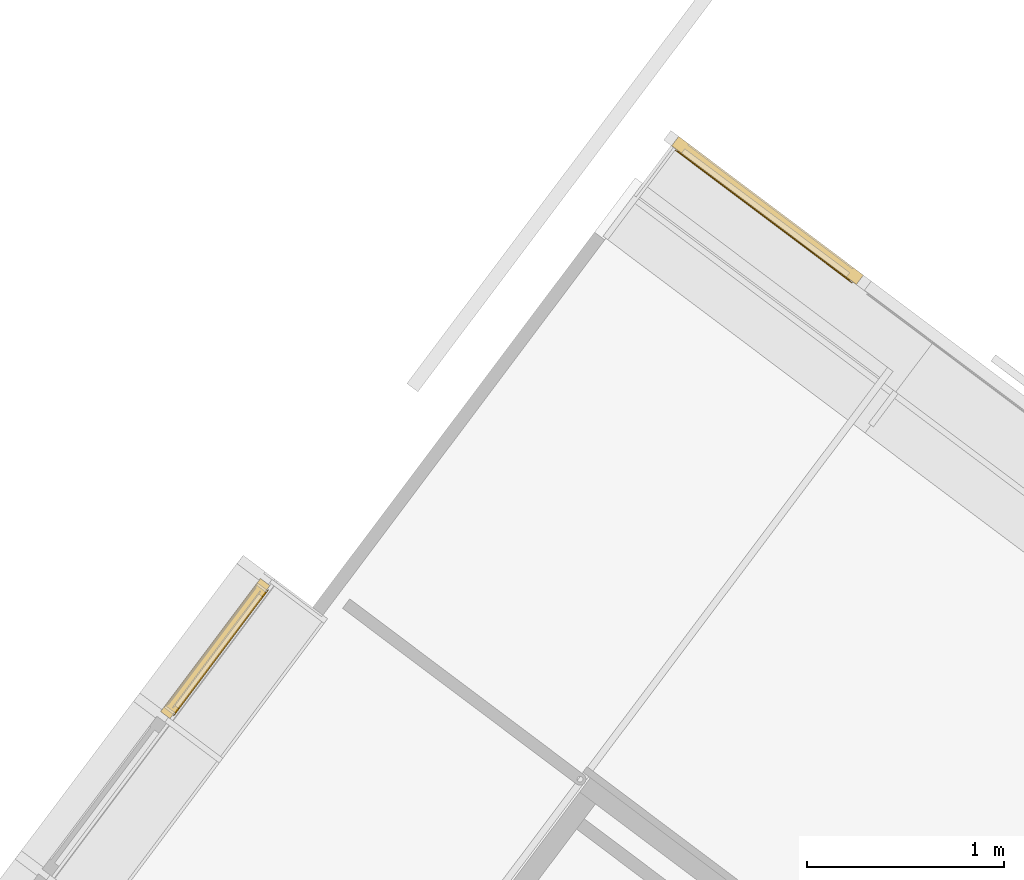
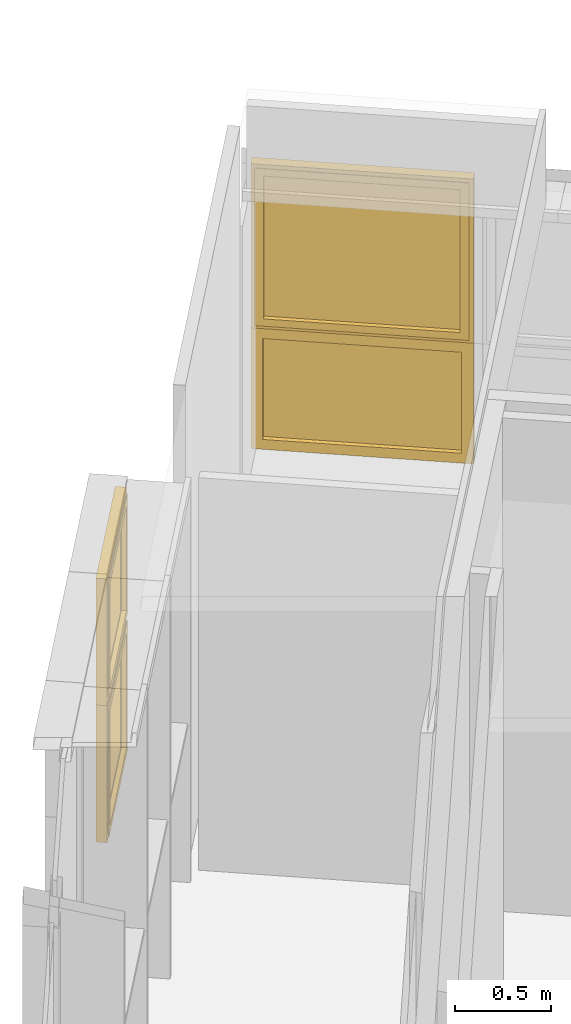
# One storey, part 234 of 243: 4 windows, 2 elements without a shape of their own.
"""IFC2X3 building model written with IfcOpenShell, lengths in metres."""

from ifc_helpers import new_model, entity, si_unit, converted_unit, derived_unit, direction, frame, origin, place, context, subcontext, project, spatial, faceted_brep, source, transform, mapped, material, material_list, type_object, type_shapes, element, aggregate, save


model = new_model("IFC2X3")

# Units and contexts
model_context = context("Model", 3, precision=1e-05, world=origin(), true_north=direction((6.123031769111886e-17, 1.0)))
body_context = subcontext(model_context, "Body", "Model", "MODEL_VIEW")
ifc_project = project(units=[si_unit("LENGTHUNIT", "METRE"), si_unit("AREAUNIT", "SQUARE_METRE"), si_unit("VOLUMEUNIT", "CUBIC_METRE"), converted_unit("PLANEANGLEUNIT", "DEGREE", entity("IfcRatioMeasure", 0.017453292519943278), si_unit("PLANEANGLEUNIT", "RADIAN"), dimensions=[0, 0, 0, 0, 0, 0, 0]), si_unit("MASSUNIT", "GRAM", prefix="KILO"), derived_unit("MASSDENSITYUNIT", [(si_unit("MASSUNIT", "GRAM", prefix="KILO"), 1), (si_unit("LENGTHUNIT", "METRE"), -3)]), derived_unit("IONCONCENTRATIONUNIT", [(si_unit("MASSUNIT", "GRAM", prefix="KILO"), 1), (si_unit("LENGTHUNIT", "METRE"), -3)]), derived_unit("MOMENTOFINERTIAUNIT", [(si_unit("LENGTHUNIT", "METRE"), 4)]), si_unit("TIMEUNIT", "SECOND"), si_unit("FREQUENCYUNIT", "HERTZ"), si_unit("THERMODYNAMICTEMPERATUREUNIT", "DEGREE_CELSIUS"), derived_unit("THERMALTRANSMITTANCEUNIT", [(si_unit("MASSUNIT", "GRAM", prefix="KILO"), 1), (si_unit("THERMODYNAMICTEMPERATUREUNIT", "KELVIN"), -1), (si_unit("TIMEUNIT", "SECOND"), -3)]), derived_unit("THERMALCONDUCTANCEUNIT", [(si_unit("MASSUNIT", "GRAM", prefix="KILO"), 1), (si_unit("THERMODYNAMICTEMPERATUREUNIT", "KELVIN"), -1), (si_unit("TIMEUNIT", "SECOND"), -3), (si_unit("LENGTHUNIT", "METRE"), 1)]), derived_unit("VOLUMETRICFLOWRATEUNIT", [(si_unit("LENGTHUNIT", "METRE"), 3), (si_unit("TIMEUNIT", "SECOND"), -1)]), derived_unit("MASSFLOWRATEUNIT", [(si_unit("MASSUNIT", "GRAM", prefix="KILO"), 1), (si_unit("TIMEUNIT", "SECOND"), -1)]), derived_unit("ROTATIONALFREQUENCYUNIT", [(si_unit("TIMEUNIT", "SECOND"), -1)]), si_unit("ELECTRICCURRENTUNIT", "AMPERE"), si_unit("ELECTRICVOLTAGEUNIT", "VOLT"), si_unit("POWERUNIT", "WATT"), si_unit("FORCEUNIT", "NEWTON", prefix="KILO"), si_unit("ILLUMINANCEUNIT", "LUX"), si_unit("LUMINOUSFLUXUNIT", "LUMEN"), si_unit("LUMINOUSINTENSITYUNIT", "CANDELA"), derived_unit("USERDEFINED", [(si_unit("MASSUNIT", "GRAM", prefix="KILO"), -1), (si_unit("LENGTHUNIT", "METRE"), -2), (si_unit("TIMEUNIT", "SECOND"), 3), (si_unit("LUMINOUSFLUXUNIT", "LUMEN"), 1)]), derived_unit("USERDEFINED", [(si_unit("MASSUNIT", "GRAM", prefix="KILO"), 1), (si_unit("TIMEUNIT", "SECOND"), -3), (si_unit("LENGTHUNIT", "METRE"), 3), (si_unit("ELECTRICCURRENTUNIT", "AMPERE"), -2)]), derived_unit("SOUNDPOWERUNIT", [(si_unit("MASSUNIT", "GRAM", prefix="KILO"), 1), (si_unit("TIMEUNIT", "SECOND"), -3), (si_unit("LENGTHUNIT", "METRE"), 2)]), derived_unit("SOUNDPRESSUREUNIT", [(si_unit("MASSUNIT", "GRAM", prefix="KILO"), 1), (si_unit("LENGTHUNIT", "METRE"), -1), (si_unit("TIMEUNIT", "SECOND"), -2)]), derived_unit("LINEARVELOCITYUNIT", [(si_unit("LENGTHUNIT", "METRE"), 1), (si_unit("TIMEUNIT", "SECOND"), -1)]), si_unit("PRESSUREUNIT", "PASCAL"), derived_unit("USERDEFINED", [(si_unit("MASSUNIT", "GRAM", prefix="KILO"), 1), (si_unit("LENGTHUNIT", "METRE"), -2), (si_unit("TIMEUNIT", "SECOND"), -2)]), derived_unit("LINEARFORCEUNIT", [(si_unit("MASSUNIT", "GRAM", prefix="KILO"), 1), (si_unit("TIMEUNIT", "SECOND"), -2)]), derived_unit("PLANARFORCEUNIT", [(si_unit("MASSUNIT", "GRAM", prefix="KILO"), 1), (si_unit("LENGTHUNIT", "METRE"), -1), (si_unit("TIMEUNIT", "SECOND"), -2)]), derived_unit("SPECIFICHEATCAPACITYUNIT", [(si_unit("THERMODYNAMICTEMPERATUREUNIT", "KELVIN"), -1), (si_unit("LENGTHUNIT", "METRE"), 2), (si_unit("TIMEUNIT", "SECOND"), -2)]), derived_unit("HEATINGVALUEUNIT", [(si_unit("LENGTHUNIT", "METRE"), 2), (si_unit("TIMEUNIT", "SECOND"), -2)]), derived_unit("VAPORPERMEABILITYUNIT", [(si_unit("LENGTHUNIT", "METRE"), -1), (si_unit("TIMEUNIT", "SECOND"), 1)]), derived_unit("DYNAMICVISCOSITYUNIT", [(si_unit("MASSUNIT", "GRAM", prefix="KILO"), 1), (si_unit("TIMEUNIT", "SECOND"), -1), (si_unit("LENGTHUNIT", "METRE"), -1)]), derived_unit("THERMALEXPANSIONCOEFFICIENTUNIT", [(si_unit("THERMODYNAMICTEMPERATUREUNIT", "KELVIN"), -1)]), derived_unit("MODULUSOFELASTICITYUNIT", [(si_unit("MASSUNIT", "GRAM", prefix="KILO"), 1), (si_unit("LENGTHUNIT", "METRE"), -1), (si_unit("TIMEUNIT", "SECOND"), -2)]), derived_unit("ISOTHERMALMOISTURECAPACITYUNIT", [(si_unit("LENGTHUNIT", "METRE"), 3), (si_unit("MASSUNIT", "GRAM", prefix="KILO"), -1)]), derived_unit("MOISTUREDIFFUSIVITYUNIT", [(si_unit("TIMEUNIT", "SECOND"), -1), (si_unit("LENGTHUNIT", "METRE"), 2)])], contexts=[model_context])

# Site, building, storey
site_placement = place(None, frame((0.0, 0.0, 235.0), z_axis=(0.0, 0.0, 1.0), x_axis=(-0.7996477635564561, 0.6004693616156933, 0.0)))
site = spatial("IfcSite", under=ifc_project, at=site_placement, Name="Default", CompositionType="ELEMENT")
building_placement = place(site_placement, origin())
building = spatial("IfcBuilding", under=site, at=building_placement, CompositionType="ELEMENT")
storey_placement = place(building_placement, origin())
storey = spatial("IfcBuildingStorey", under=building, at=storey_placement, Name="P0- Escola", CompositionType="ELEMENT", Elevation=0.0)

# Curtain wall, windows
curtain_wall_type_1 = type_object("IfcCurtainWallType", Name="Muro cortina:MC- EXT- MC6", PredefinedType="NOTDEFINED")
curtain_wall_1_placement = place(storey_placement, origin())
curtain_wall_1 = element("IfcCurtainWall", 1, at=curtain_wall_1_placement, inside=storey, type_object=curtain_wall_type_1, Name="Muro cortina:MC- EXT- MC6", ObjectType="Muro cortina:MC- EXT- MC6")
ifc_material_1 = material(Name="_Vidre")
ifc_material_2 = material(Name="_Alumini- T1- Perfil")
ifc_material_list = material_list([ifc_material_1, ifc_material_2])
window_style_1 = type_object("IfcWindowStyle", Name="MC- Alu- Conjunt vidre fix- 62x60 cm:MC- Alu- Conjunt vidre fix- 62x60 cm", ConstructionType="NOTDEFINED", OperationType="NOTDEFINED", ParameterTakesPrecedence=False, Sizeable=False, material=ifc_material_list)
shared_shape_1 = source(origin(), body_context, "Body", "Brep", [
    faceted_brep([(0.5369907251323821, -0.007600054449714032, 0.048806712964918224), (0.5369907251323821, -0.03160022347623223, 0.048806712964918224), (-0.5369907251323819, -0.03160022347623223, 0.048806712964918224), (-0.5369907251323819, -0.007600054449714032, 0.048806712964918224), (0.5369907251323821, -0.007600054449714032, 0.7210000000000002), (-0.5369907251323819, -0.007600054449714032, 0.7210000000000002), (-0.5369907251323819, -0.03160022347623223, 0.7210000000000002), (0.5369907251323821, -0.03160022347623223, 0.7210000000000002)], [[[0, 1, 2, 3]], [[4, 0, 3, 5]], [[5, 3, 2, 6]], [[6, 2, 1, 7]], [[7, 1, 0, 4]], [[4, 5, 6, 7]]]),
    faceted_brep([(0.5857974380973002, -0.05999999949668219, 0.7700000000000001), (0.5857974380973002, -0.05999999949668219, 0.0), (0.5857974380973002, 0.0, 0.0), (0.5857974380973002, 0.0, 0.77), (-0.5857974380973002, 0.0, 0.7700000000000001), (-0.5857974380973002, 0.0, 0.0), (0.522990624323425, 0.0, 0.7071931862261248), (-0.5229906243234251, 0.0, 0.707193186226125), (-0.522990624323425, 0.0, 0.0628068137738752), (0.522990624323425, 0.0, 0.06280681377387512), (-0.5857974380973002, -0.05999999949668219, 0.0), (-0.5857974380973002, -0.05999999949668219, 0.7700000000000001), (-0.5229934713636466, -0.05999999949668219, 0.7071960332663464), (0.5229934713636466, -0.05999999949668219, 0.7071960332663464), (0.5229934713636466, -0.05999999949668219, 0.0628039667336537), (-0.5229934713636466, -0.05999999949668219, 0.0628039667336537), (0.5229934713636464, -0.03160022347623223, 0.7071960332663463), (0.5229934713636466, -0.03160022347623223, 0.0628039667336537), (-0.5229934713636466, -0.03160022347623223, 0.06280396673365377), (-0.5229934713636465, -0.03160022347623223, 0.7071960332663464), (-0.5369907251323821, -0.03160022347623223, 0.721193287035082), (0.5369907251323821, -0.03160022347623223, 0.721193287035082), (0.5369907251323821, -0.03160022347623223, 0.048806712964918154), (-0.5369907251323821, -0.03160022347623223, 0.04880671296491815), (0.5369907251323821, -0.007600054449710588, 0.721193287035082), (0.5369907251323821, -0.007600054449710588, 0.04880671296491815), (-0.5369907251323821, -0.007600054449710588, 0.048806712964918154), (-0.5369907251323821, -0.007600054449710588, 0.721193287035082), (-0.5229906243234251, -0.007600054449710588, 0.707193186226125), (0.5229906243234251, -0.007600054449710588, 0.707193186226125), (0.5229906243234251, -0.007600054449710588, 0.06280681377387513), (-0.5229906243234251, -0.007600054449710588, 0.06280681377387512)], [[[0, 1, 2, 3]], [[4, 3, 2, 5], [6, 7, 8, 9]], [[1, 10, 5, 2]], [[0, 11, 10, 1], [12, 13, 14, 15]], [[16, 17, 14, 13]], [[17, 18, 15, 14]], [[16, 19, 18, 17], [20, 21, 22, 23]], [[24, 25, 22, 21]], [[25, 26, 23, 22]], [[24, 27, 26, 25], [28, 29, 30, 31]], [[6, 9, 30, 29]], [[9, 8, 31, 30]], [[10, 11, 4, 5]], [[18, 19, 12, 15]], [[26, 27, 20, 23]], [[8, 7, 28, 31]], [[11, 0, 3, 4]], [[19, 16, 13, 12]], [[27, 24, 21, 20]], [[7, 6, 29, 28]]], outer=[[True], [True, False], [True], [True, False], [True], [True], [False, True], [True], [True], [True, False], [True], [True], [True], [True], [True], [True], [True], [True], [True], [True]]),
])
type_shapes(window_style_1, [shared_shape_1])
window_1_placement = place(curtain_wall_1_placement, frame((73.80935024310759, -42.34019175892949, 0.685), z_axis=(0.0, 0.0, 1.0), x_axis=(-1.0, 0.0, 0.0)))
window_1 = element("IfcWindow", 2, at=window_1_placement, type_object=window_style_1, material=ifc_material_list, Name="MC- Alu- Conjunt vidre fix- 62x60 cm:MC- Alu- Conjunt vidre fix- 62x60 cm", ObjectType="MC- Alu- Conjunt vidre fix- 62x60 cm:MC- Alu- Conjunt vidre fix- 62x60 cm", OverallHeight=0.7700000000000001, OverallWidth=1.1715948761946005, context=body_context, shape_type="MappedRepresentation", body=[
    mapped(shared_shape_1, transform((0.0, 0.0, 0.0), scale=1.0)),
])
window_style_2 = type_object("IfcWindowStyle", Name="MC- Alu- Conjunt finestra basculant- 68x68 cm:MC- Alu- Conjunt finestra basculant- 68x68 cm", ConstructionType="NOTDEFINED", OperationType="NOTDEFINED", ParameterTakesPrecedence=False, Sizeable=False, material=ifc_material_list)
shared_shape_2 = source(origin(), body_context, "Body", "Brep", [
    faceted_brep([(0.5337091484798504, -0.03559830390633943, 0.051999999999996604), (-0.5337091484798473, -0.03559830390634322, 0.051999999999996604), (-0.5337091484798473, -0.011598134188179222, 0.051999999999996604), (0.5337091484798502, -0.011598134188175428, 0.051999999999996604), (0.5337091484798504, -0.03559830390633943, 0.9953027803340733), (0.5337091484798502, -0.011598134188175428, 0.9953027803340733), (-0.5337091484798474, -0.011598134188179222, 0.9953027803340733), (-0.5337091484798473, -0.03559830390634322, 0.9953027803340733)], [[[0, 1, 2, 3]], [[4, 0, 3, 5]], [[5, 3, 2, 6]], [[6, 2, 1, 7]], [[7, 1, 0, 4]], [[4, 5, 6, 7]]]),
    faceted_brep([(-0.5180083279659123, -0.009998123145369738, 0.9796019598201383), (-0.5180083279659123, -0.00999812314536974, 0.06789804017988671), (-0.5180083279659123, -0.007998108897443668, 0.06789804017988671), (-0.5180083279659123, -0.007998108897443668, 0.9796019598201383), (-0.5469063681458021, -0.00799810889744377, 1.0085000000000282), (0.5469063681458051, -0.007998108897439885, 1.0085000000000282), (0.5469063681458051, -0.007998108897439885, 0.03899999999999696), (-0.5469063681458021, -0.00799810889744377, 0.03899999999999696), (0.5180083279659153, -0.007998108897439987, 0.9796019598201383), (0.5180083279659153, -0.007998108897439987, 0.06789804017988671), (0.5180083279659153, -0.009998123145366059, 0.06789804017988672), (0.5180083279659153, -0.009998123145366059, 0.9796019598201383), (0.5337091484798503, -0.009998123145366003, 0.9953027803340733), (-0.5337091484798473, -0.009998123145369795, 0.9953027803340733), (-0.5337091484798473, -0.009998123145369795, 0.05219721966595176), (0.5337091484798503, -0.009998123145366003, 0.052197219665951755), (-0.5337091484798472, -0.04079986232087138, 0.9953027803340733), (-0.5337091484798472, -0.04079986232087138, 0.052197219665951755), (0.5337091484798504, -0.040799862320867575, 0.05219721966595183), (0.5337091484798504, -0.04079986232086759, 0.9953027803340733), (0.5180083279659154, -0.04079986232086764, 0.9796019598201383), (-0.5180083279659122, -0.040799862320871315, 0.9796019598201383), (-0.5180083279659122, -0.040799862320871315, 0.06789804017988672), (0.5180083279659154, -0.04079986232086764, 0.06789804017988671), (-0.5180083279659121, -0.06800005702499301, 0.9796019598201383), (-0.5180083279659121, -0.06800005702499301, 0.06789804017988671), (0.5180083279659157, -0.06800005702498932, 0.06789804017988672), (0.5180083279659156, -0.06800005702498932, 0.9796019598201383), (0.5644103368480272, -0.06800005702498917, 1.02600396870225), (-0.5644103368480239, -0.06800005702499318, 1.02600396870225), (-0.5644103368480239, -0.06800005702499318, 0.021496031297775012), (0.5644103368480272, -0.06800005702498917, 0.021496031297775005), (-0.5644103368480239, -0.06450003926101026, 1.02600396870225), (-0.5644103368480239, -0.06450003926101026, 0.021496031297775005), (0.5644103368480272, -0.06450003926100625, 0.02149603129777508), (0.5644103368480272, -0.06450003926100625, 1.02600396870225), (0.5469063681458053, -0.06450003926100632, 1.0085000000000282), (-0.546906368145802, -0.0645000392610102, 1.0085000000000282), (-0.546906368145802, -0.0645000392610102, 0.03899999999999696), (0.5469063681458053, -0.06450003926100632, 0.038999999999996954)], [[[0, 1, 2, 3]], [[4, 5, 6, 7], [8, 3, 2, 9]], [[1, 10, 9, 2]], [[0, 11, 10, 1], [12, 13, 14, 15]], [[16, 17, 14, 13]], [[17, 18, 15, 14]], [[16, 19, 18, 17], [20, 21, 22, 23]], [[24, 25, 22, 21]], [[25, 26, 23, 22]], [[24, 27, 26, 25], [28, 29, 30, 31]], [[32, 33, 30, 29]], [[33, 34, 31, 30]], [[32, 35, 34, 33], [36, 37, 38, 39]], [[4, 7, 38, 37]], [[7, 6, 39, 38]], [[10, 11, 8, 9]], [[18, 19, 12, 15]], [[26, 27, 20, 23]], [[34, 35, 28, 31]], [[6, 5, 36, 39]], [[11, 0, 3, 8]], [[19, 16, 13, 12]], [[27, 24, 21, 20]], [[35, 32, 29, 28]], [[5, 4, 37, 36]]], outer=[[True], [True, False], [True], [False, True], [True], [True], [True, False], [True], [True], [False, True], [True], [True], [True, False], [True], [True], [True], [True], [True], [True], [True], [True], [True], [True], [True], [True]]),
    faceted_brep([(0.5229906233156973, 0.0, 0.9846931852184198), (0.5229906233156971, 0.0, 0.06280681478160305), (0.5229906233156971, -0.0040000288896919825, 0.06280681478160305), (0.5229906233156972, -0.0040000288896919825, 0.9846931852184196), (-0.5229906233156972, -0.0040000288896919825, 0.9846931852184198), (-0.5229906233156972, -0.0040000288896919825, 0.06280681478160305), (0.558397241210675, -0.0040000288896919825, 1.0200998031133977), (-0.558397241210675, -0.0040000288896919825, 1.0200998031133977), (-0.558397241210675, -0.0040000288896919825, 0.027400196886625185), (0.558397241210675, -0.0040000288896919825, 0.02740019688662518), (-0.5229906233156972, 0.0, 0.06280681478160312), (-0.5229906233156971, 0.0, 0.9846931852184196), (-0.5857974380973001, 0.0, 1.0475000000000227), (0.5857974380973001, 0.0, 1.0475000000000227), (0.5857974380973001, 0.0, 0.0), (-0.5857974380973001, 0.0, 0.0), (0.5857974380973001, -0.05999999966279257, 1.0475000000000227), (0.5857974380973, -0.05999999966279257, 0.0), (-0.5857974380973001, -0.05999999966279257, 0.0), (-0.5857974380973, -0.05999999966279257, 1.0475000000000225), (-0.558397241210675, -0.05999999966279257, 1.0200998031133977), (0.558397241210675, -0.05999999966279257, 1.0200998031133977), (0.558397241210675, -0.05999999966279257, 0.027400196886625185), (-0.558397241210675, -0.05999999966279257, 0.02740019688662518)], [[[0, 1, 2, 3]], [[4, 3, 2, 5], [6, 7, 8, 9]], [[1, 10, 5, 2]], [[0, 11, 10, 1], [12, 13, 14, 15]], [[16, 17, 14, 13]], [[17, 18, 15, 14]], [[16, 19, 18, 17], [20, 21, 22, 23]], [[6, 9, 22, 21]], [[9, 8, 23, 22]], [[10, 11, 4, 5]], [[18, 19, 12, 15]], [[8, 7, 20, 23]], [[11, 0, 3, 4]], [[19, 16, 13, 12]], [[7, 6, 21, 20]]], outer=[[True], [False, True], [True], [False, True], [True], [True], [True, False], [True], [True], [True], [True], [True], [True], [True], [True]]),
])
type_shapes(window_style_2, [shared_shape_2])
window_2_placement = place(curtain_wall_1_placement, frame((73.80935024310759, -42.34019175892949, 1.455), z_axis=(0.0, 0.0, 1.0), x_axis=(-1.0, 0.0, 0.0)))
window_2 = element("IfcWindow", 3, at=window_2_placement, type_object=window_style_2, material=ifc_material_list, Name="MC- Alu- Conjunt finestra basculant- 68x68 cm:MC- Alu- Conjunt finestra basculant- 68x68 cm", ObjectType="MC- Alu- Conjunt finestra basculant- 68x68 cm:MC- Alu- Conjunt finestra basculant- 68x68 cm", OverallHeight=1.0475000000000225, OverallWidth=1.1715948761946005, context=body_context, shape_type="MappedRepresentation", body=[
    mapped(shared_shape_2, transform((0.0, 0.0, 0.0), scale=1.0)),
])
aggregate(curtain_wall_1, [window_1, window_2])

curtain_wall_type_2 = type_object("IfcCurtainWallType", Name="Muro cortina:MC- EXT- MC5", PredefinedType="NOTDEFINED")
curtain_wall_2_placement = place(storey_placement, origin())
curtain_wall_2 = element("IfcCurtainWall", 4, at=curtain_wall_2_placement, inside=storey, type_object=curtain_wall_type_2, Name="Muro cortina:MC- EXT- MC5", ObjectType="Muro cortina:MC- EXT- MC5")
window_style_3 = type_object("IfcWindowStyle", Name="MC- Alu- Conjunt finestra basculant- 68x68 cm:MC- Alu- Conjunt finestra basculant- 68x68 cm", ConstructionType="NOTDEFINED", OperationType="NOTDEFINED", ParameterTakesPrecedence=False, Sizeable=False, material=ifc_material_list)
shared_shape_3 = source(origin(), body_context, "Body", "Brep", [
    faceted_brep([(-0.3697867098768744, -0.035598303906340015, 0.051999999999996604), (-0.36978670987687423, -0.011598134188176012, 0.051999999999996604), (0.36978670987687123, -0.011598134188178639, 0.051999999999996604), (0.3697867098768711, -0.03559830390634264, 0.051999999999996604), (-0.3697867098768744, -0.035598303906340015, 0.8228027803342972), (-0.36978670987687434, -0.011598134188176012, 0.8228027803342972), (0.36978670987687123, -0.01159813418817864, 0.8228027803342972), (0.3697867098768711, -0.03559830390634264, 0.8228027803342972)], [[[0, 1, 2, 3]], [[4, 5, 1, 0]], [[5, 6, 2, 1]], [[6, 7, 3, 2]], [[7, 4, 0, 3]], [[4, 7, 6, 5]]]),
    faceted_brep([(0.3540858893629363, -0.009998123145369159, 0.8071019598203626), (0.3540858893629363, -0.007998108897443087, 0.8071019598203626), (0.3540858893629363, -0.007998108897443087, 0.06789804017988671), (0.3540858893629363, -0.009998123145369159, 0.06789804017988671), (0.382983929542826, -0.00799810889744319, 0.8360000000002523), (0.382983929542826, -0.00799810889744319, 0.03899999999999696), (-0.3829839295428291, -0.00799810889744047, 0.03899999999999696), (-0.3829839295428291, -0.00799810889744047, 0.8360000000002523), (-0.3540858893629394, -0.007998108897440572, 0.8071019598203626), (-0.3540858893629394, -0.007998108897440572, 0.06789804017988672), (-0.3540858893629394, -0.009998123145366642, 0.06789804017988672), (-0.3540858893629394, -0.009998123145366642, 0.8071019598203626), (-0.36978670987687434, -0.009998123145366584, 0.8228027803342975), (-0.36978670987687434, -0.009998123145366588, 0.05219721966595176), (0.36978670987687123, -0.009998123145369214, 0.052197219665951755), (0.36978670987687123, -0.009998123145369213, 0.8228027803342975), (0.36978670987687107, -0.040799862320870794, 0.8228027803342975), (0.36978670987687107, -0.0407998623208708, 0.052197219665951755), (-0.36978670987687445, -0.04079986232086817, 0.05219721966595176), (-0.36978670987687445, -0.04079986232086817, 0.8228027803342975), (-0.3540858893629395, -0.04079986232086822, 0.8071019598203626), (-0.3540858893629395, -0.04079986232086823, 0.06789804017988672), (0.3540858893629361, -0.04079986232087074, 0.06789804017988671), (0.3540858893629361, -0.04079986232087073, 0.8071019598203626), (0.354085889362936, -0.06800005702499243, 0.8071019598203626), (0.35408588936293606, -0.06800005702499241, 0.06789804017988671), (-0.35408588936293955, -0.0680000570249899, 0.06789804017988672), (-0.35408588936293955, -0.0680000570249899, 0.8071019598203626), (-0.40048789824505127, -0.06800005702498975, 0.8535039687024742), (-0.40048789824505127, -0.06800005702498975, 0.021496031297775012), (0.40048789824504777, -0.0680000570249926, 0.021496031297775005), (0.40048789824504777, -0.0680000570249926, 0.8535039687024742), (0.40048789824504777, -0.06450003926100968, 0.8535039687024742), (0.40048789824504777, -0.06450003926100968, 0.021496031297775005), (-0.40048789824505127, -0.06450003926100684, 0.021496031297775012), (-0.40048789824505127, -0.06450003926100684, 0.8535039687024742), (-0.38298392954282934, -0.0645000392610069, 0.8360000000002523), (-0.38298392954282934, -0.0645000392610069, 0.03899999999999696), (0.3829839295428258, -0.06450003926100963, 0.038999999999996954), (0.3829839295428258, -0.06450003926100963, 0.8360000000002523)], [[[0, 1, 2, 3]], [[4, 5, 6, 7], [8, 9, 2, 1]], [[3, 2, 9, 10]], [[0, 3, 10, 11], [12, 13, 14, 15]], [[16, 15, 14, 17]], [[17, 14, 13, 18]], [[16, 17, 18, 19], [20, 21, 22, 23]], [[24, 23, 22, 25]], [[25, 22, 21, 26]], [[24, 25, 26, 27], [28, 29, 30, 31]], [[32, 31, 30, 33]], [[33, 30, 29, 34]], [[32, 33, 34, 35], [36, 37, 38, 39]], [[4, 39, 38, 5]], [[5, 38, 37, 6]], [[10, 9, 8, 11]], [[18, 13, 12, 19]], [[26, 21, 20, 27]], [[34, 29, 28, 35]], [[6, 37, 36, 7]], [[11, 8, 1, 0]], [[19, 12, 15, 16]], [[27, 20, 23, 24]], [[35, 28, 31, 32]], [[7, 36, 39, 4]]], outer=[[True], [True, False], [True], [False, True], [True], [True], [True, False], [True], [True], [False, True], [True], [True], [True, False], [True], [True], [True], [True], [True], [True], [True], [True], [True], [True], [True], [True]]),
    faceted_brep([(-0.35906818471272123, 0.0, 0.8121931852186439), (-0.35906818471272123, -0.0040000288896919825, 0.8121931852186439), (-0.35906818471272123, -0.0040000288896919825, 0.06280681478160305), (-0.35906818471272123, 0.0, 0.06280681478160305), (-0.39447480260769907, -0.0040000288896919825, 0.8475998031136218), (-0.39447480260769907, -0.0040000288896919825, 0.027400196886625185), (0.39447480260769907, -0.0040000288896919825, 0.027400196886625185), (0.39447480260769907, -0.0040000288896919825, 0.8475998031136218), (0.35906818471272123, -0.0040000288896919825, 0.8121931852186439), (0.35906818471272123, -0.0040000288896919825, 0.06280681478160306), (0.35906818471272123, 0.0, 0.06280681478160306), (0.35906818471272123, 0.0, 0.8121931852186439), (0.4218749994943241, 0.0, 0.8750000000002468), (0.4218749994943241, 0.0, 0.0), (-0.4218749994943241, 0.0, 0.0), (-0.4218749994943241, 0.0, 0.8750000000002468), (-0.4218749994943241, -0.05999999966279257, 0.8750000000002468), (-0.4218749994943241, -0.05999999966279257, 0.0), (0.4218749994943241, -0.05999999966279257, 0.0), (0.4218749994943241, -0.05999999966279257, 0.8750000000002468), (0.39447480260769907, -0.05999999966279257, 0.8475998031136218), (0.39447480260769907, -0.05999999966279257, 0.027400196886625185), (-0.39447480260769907, -0.05999999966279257, 0.02740019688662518), (-0.39447480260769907, -0.05999999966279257, 0.8475998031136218)], [[[0, 1, 2, 3]], [[4, 5, 6, 7], [8, 9, 2, 1]], [[3, 2, 9, 10]], [[0, 3, 10, 11], [12, 13, 14, 15]], [[16, 15, 14, 17]], [[17, 14, 13, 18]], [[16, 17, 18, 19], [20, 21, 22, 23]], [[4, 23, 22, 5]], [[5, 22, 21, 6]], [[10, 9, 8, 11]], [[18, 13, 12, 19]], [[6, 21, 20, 7]], [[11, 8, 1, 0]], [[19, 12, 15, 16]], [[7, 20, 23, 4]]], outer=[[True], [True, False], [True], [False, True], [True], [True], [True, False], [True], [True], [True], [True], [True], [True], [True], [True]]),
])
type_shapes(window_style_3, [shared_shape_3])
window_3_placement = place(curtain_wall_2_placement, frame((74.74514768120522, -38.85206675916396, 0.8200000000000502), z_axis=(0.0, 0.0, 1.0), x_axis=(0.0, -1.0, 0.0)))
window_3 = element("IfcWindow", 5, at=window_3_placement, type_object=window_style_3, material=ifc_material_list, Name="MC- Alu- Conjunt finestra basculant- 68x68 cm:MC- Alu- Conjunt finestra basculant- 68x68 cm", ObjectType="MC- Alu- Conjunt finestra basculant- 68x68 cm:MC- Alu- Conjunt finestra basculant- 68x68 cm", OverallHeight=0.8750000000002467, OverallWidth=0.8437499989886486, context=body_context, shape_type="MappedRepresentation", body=[
    mapped(shared_shape_3, transform((0.0, 0.0, 0.0), scale=1.0)),
])
window_style_4 = type_object("IfcWindowStyle", Name="MC- Alu- Conjunt finestra basculant- 68x68 cm:MC- Alu- Conjunt finestra basculant- 68x68 cm", ConstructionType="NOTDEFINED", OperationType="NOTDEFINED", ParameterTakesPrecedence=False, Sizeable=False, material=ifc_material_list)
shared_shape_4 = source(origin(), body_context, "Body", "Brep", [
    faceted_brep([(-0.3697867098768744, -0.035598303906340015, 0.051999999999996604), (-0.36978670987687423, -0.011598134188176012, 0.051999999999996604), (0.36978670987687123, -0.011598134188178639, 0.051999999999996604), (0.3697867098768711, -0.03559830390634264, 0.051999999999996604), (-0.3697867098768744, -0.035598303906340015, 0.7565527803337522), (-0.36978670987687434, -0.011598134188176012, 0.7565527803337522), (0.36978670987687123, -0.01159813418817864, 0.7565527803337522), (0.3697867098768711, -0.03559830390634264, 0.7565527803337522)], [[[0, 1, 2, 3]], [[4, 5, 1, 0]], [[5, 6, 2, 1]], [[6, 7, 3, 2]], [[7, 4, 0, 3]], [[4, 7, 6, 5]]]),
    faceted_brep([(0.3540858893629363, -0.009998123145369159, 0.7408519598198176), (0.3540858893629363, -0.007998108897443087, 0.7408519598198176), (0.3540858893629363, -0.007998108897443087, 0.06789804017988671), (0.3540858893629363, -0.009998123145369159, 0.06789804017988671), (0.382983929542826, -0.00799810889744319, 0.7697499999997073), (0.382983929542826, -0.00799810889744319, 0.03899999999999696), (-0.3829839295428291, -0.00799810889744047, 0.03899999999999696), (-0.3829839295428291, -0.00799810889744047, 0.7697499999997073), (-0.3540858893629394, -0.007998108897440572, 0.7408519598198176), (-0.3540858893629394, -0.007998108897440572, 0.06789804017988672), (-0.3540858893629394, -0.009998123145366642, 0.06789804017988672), (-0.3540858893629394, -0.009998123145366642, 0.7408519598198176), (-0.36978670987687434, -0.009998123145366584, 0.7565527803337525), (-0.36978670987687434, -0.009998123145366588, 0.05219721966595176), (0.36978670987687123, -0.009998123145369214, 0.052197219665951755), (0.36978670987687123, -0.009998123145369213, 0.7565527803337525), (0.36978670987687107, -0.040799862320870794, 0.7565527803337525), (0.36978670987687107, -0.0407998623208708, 0.052197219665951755), (-0.36978670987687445, -0.04079986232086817, 0.05219721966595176), (-0.36978670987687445, -0.04079986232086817, 0.7565527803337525), (-0.3540858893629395, -0.04079986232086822, 0.7408519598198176), (-0.3540858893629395, -0.04079986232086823, 0.06789804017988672), (0.3540858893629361, -0.04079986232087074, 0.06789804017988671), (0.3540858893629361, -0.04079986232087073, 0.7408519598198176), (0.354085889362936, -0.06800005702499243, 0.7408519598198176), (0.35408588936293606, -0.06800005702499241, 0.06789804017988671), (-0.35408588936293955, -0.0680000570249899, 0.06789804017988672), (-0.35408588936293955, -0.0680000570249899, 0.7408519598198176), (-0.40048789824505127, -0.06800005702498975, 0.7872539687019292), (-0.40048789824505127, -0.06800005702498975, 0.021496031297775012), (0.40048789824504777, -0.0680000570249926, 0.021496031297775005), (0.40048789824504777, -0.0680000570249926, 0.7872539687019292), (0.40048789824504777, -0.06450003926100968, 0.7872539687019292), (0.40048789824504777, -0.06450003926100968, 0.021496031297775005), (-0.40048789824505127, -0.06450003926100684, 0.021496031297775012), (-0.40048789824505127, -0.06450003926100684, 0.7872539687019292), (-0.38298392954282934, -0.0645000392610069, 0.7697499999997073), (-0.38298392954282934, -0.0645000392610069, 0.03899999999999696), (0.3829839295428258, -0.06450003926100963, 0.038999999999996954), (0.3829839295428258, -0.06450003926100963, 0.7697499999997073)], [[[0, 1, 2, 3]], [[4, 5, 6, 7], [8, 9, 2, 1]], [[3, 2, 9, 10]], [[0, 3, 10, 11], [12, 13, 14, 15]], [[16, 15, 14, 17]], [[17, 14, 13, 18]], [[16, 17, 18, 19], [20, 21, 22, 23]], [[24, 23, 22, 25]], [[25, 22, 21, 26]], [[24, 25, 26, 27], [28, 29, 30, 31]], [[32, 31, 30, 33]], [[33, 30, 29, 34]], [[32, 33, 34, 35], [36, 37, 38, 39]], [[4, 39, 38, 5]], [[5, 38, 37, 6]], [[10, 9, 8, 11]], [[18, 13, 12, 19]], [[26, 21, 20, 27]], [[34, 29, 28, 35]], [[6, 37, 36, 7]], [[11, 8, 1, 0]], [[19, 12, 15, 16]], [[27, 20, 23, 24]], [[35, 28, 31, 32]], [[7, 36, 39, 4]]], outer=[[True], [True, False], [True], [False, True], [True], [True], [True, False], [True], [True], [False, True], [True], [True], [True, False], [True], [True], [True], [True], [True], [True], [True], [True], [True], [True], [True], [True]]),
    faceted_brep([(-0.35906818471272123, 0.0, 0.7459431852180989), (-0.35906818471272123, -0.0040000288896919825, 0.7459431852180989), (-0.35906818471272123, -0.0040000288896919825, 0.06280681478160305), (-0.35906818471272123, 0.0, 0.06280681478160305), (-0.39447480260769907, -0.0040000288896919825, 0.7813498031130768), (-0.39447480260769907, -0.0040000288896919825, 0.027400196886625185), (0.39447480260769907, -0.0040000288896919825, 0.027400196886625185), (0.39447480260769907, -0.0040000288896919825, 0.7813498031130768), (0.35906818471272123, -0.0040000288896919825, 0.7459431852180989), (0.35906818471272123, -0.0040000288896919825, 0.06280681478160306), (0.35906818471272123, 0.0, 0.06280681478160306), (0.35906818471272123, 0.0, 0.7459431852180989), (0.4218749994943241, 0.0, 0.8087499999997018), (0.4218749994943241, 0.0, 0.0), (-0.4218749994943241, 0.0, 0.0), (-0.4218749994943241, 0.0, 0.8087499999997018), (-0.4218749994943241, -0.05999999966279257, 0.8087499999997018), (-0.4218749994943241, -0.05999999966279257, 0.0), (0.4218749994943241, -0.05999999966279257, 0.0), (0.4218749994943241, -0.05999999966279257, 0.8087499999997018), (0.39447480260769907, -0.05999999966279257, 0.7813498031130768), (0.39447480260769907, -0.05999999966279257, 0.027400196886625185), (-0.39447480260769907, -0.05999999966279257, 0.02740019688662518), (-0.39447480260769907, -0.05999999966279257, 0.7813498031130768)], [[[0, 1, 2, 3]], [[4, 5, 6, 7], [8, 9, 2, 1]], [[3, 2, 9, 10]], [[0, 3, 10, 11], [12, 13, 14, 15]], [[16, 15, 14, 17]], [[17, 14, 13, 18]], [[16, 17, 18, 19], [20, 21, 22, 23]], [[4, 23, 22, 5]], [[5, 22, 21, 6]], [[10, 9, 8, 11]], [[18, 13, 12, 19]], [[6, 21, 20, 7]], [[11, 8, 1, 0]], [[19, 12, 15, 16]], [[7, 20, 23, 4]]], outer=[[True], [True, False], [True], [False, True], [True], [True], [True, False], [True], [True], [True], [True], [True], [True], [True], [True]]),
])
type_shapes(window_style_4, [shared_shape_4])
window_4_placement = place(curtain_wall_2_placement, frame((74.74514768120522, -38.85206675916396, 1.6950000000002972), z_axis=(0.0, 0.0, 1.0), x_axis=(0.0, -1.0, 0.0)))
window_4 = element("IfcWindow", 6, at=window_4_placement, type_object=window_style_4, material=ifc_material_list, Name="MC- Alu- Conjunt finestra basculant- 68x68 cm:MC- Alu- Conjunt finestra basculant- 68x68 cm", ObjectType="MC- Alu- Conjunt finestra basculant- 68x68 cm:MC- Alu- Conjunt finestra basculant- 68x68 cm", OverallHeight=0.8087499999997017, OverallWidth=0.8437499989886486, context=body_context, shape_type="MappedRepresentation", body=[
    mapped(shared_shape_4, transform((0.0, 0.0, 0.0), scale=1.0)),
])
aggregate(curtain_wall_2, [window_3, window_4])

save(model, "model.ifc")
